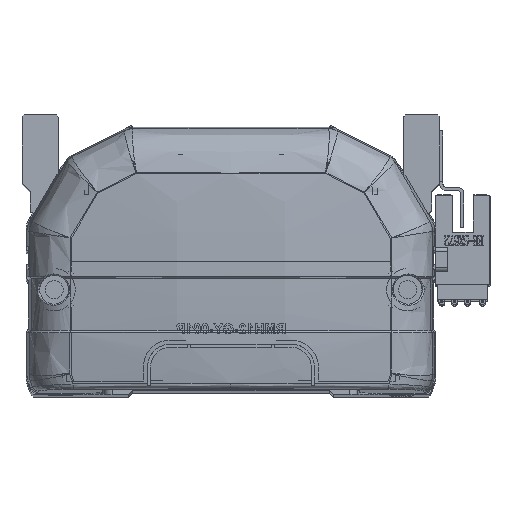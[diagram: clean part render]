
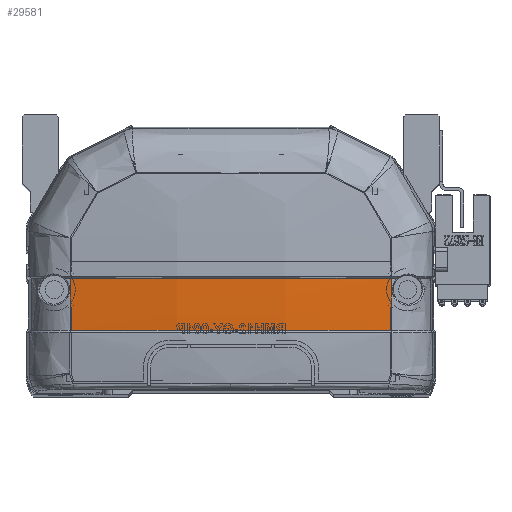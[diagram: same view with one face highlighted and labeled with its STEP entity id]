
A CAD part, top view. The second image highlights one B-rep face of the part: STEP entity #29581.
In plain terms, the highlighted free-form (B-spline) face has degree [3, 3] with [4, 4] control points.
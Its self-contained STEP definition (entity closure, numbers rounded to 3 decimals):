
#160 = EDGE_CURVE ( 'NONE', #23697, #36973, #4346, .T. ) ;
#3693 = ORIENTED_EDGE ( 'NONE', *, *, #51872, .F. ) ;
#3883 = CARTESIAN_POINT ( 'NONE',  ( 39.985, 15.83, -5.879 ) ) ;
#4252 = ORIENTED_EDGE ( 'NONE', *, *, #13504, .T. ) ;
#4346 = B_SPLINE_CURVE_WITH_KNOTS ( 'NONE', 3,
 ( #18769, #13961, #50722, #9943 ),
 .UNSPECIFIED., .F., .F.,
 ( 4, 4 ),
 ( 0., 1. ),
 .UNSPECIFIED. ) ;
#6533 = CARTESIAN_POINT ( 'NONE',  ( -40.461, 24.47, -6.231 ) ) ;
#6645 =( BOUNDED_SURFACE ( )  B_SPLINE_SURFACE ( 3, 3, ( 
 ( #14971, #56055, #10520, #15169 ),
 ( #19757, #24330, #28933, #38091 ),
 ( #25528, #34286, #39117, #48475 ),
 ( #21138, #20567, #6533, #11502 ) ),
 .UNSPECIFIED., .F., .F., .F. ) 
 B_SPLINE_SURFACE_WITH_KNOTS ( ( 4, 4 ),
 ( 4, 4 ),
 ( 0., 1. ),
 ( 0., 1. ),
 .UNSPECIFIED. ) 
 GEOMETRIC_REPRESENTATION_ITEM ( )  RATIONAL_B_SPLINE_SURFACE ( (
 ( 1., 1., 1., 1.),
 ( 0.992, 0.992, 0.992, 0.992),
 ( 0.992, 0.992, 0.992, 0.992),
 ( 1., 1., 1., 1.) ) ) 
 REPRESENTATION_ITEM ( '' )  SURFACE ( )  );
#9943 = CARTESIAN_POINT ( 'NONE',  ( 39.963, 28.706, -6.372 ) ) ;
#10520 = CARTESIAN_POINT ( 'NONE',  ( 40.461, 24.47, -6.231 ) ) ;
#11502 = CARTESIAN_POINT ( 'NONE',  ( -40.461, 28.832, -6.296 ) ) ;
#13504 = EDGE_CURVE ( 'NONE', #53776, #21131, #42001, .T. ) ;
#13961 = CARTESIAN_POINT ( 'NONE',  ( 39.973, 20.12, -6.142 ) ) ;
#14356 = CARTESIAN_POINT ( 'NONE',  ( -39.985, 15.83, -5.879 ) ) ;
#14754 = CARTESIAN_POINT ( 'NONE',  ( -26.721, 15.83, -7.624 ) ) ;
#14860 = CARTESIAN_POINT ( 'NONE',  ( -39.973, 20.118, -6.142 ) ) ;
#14971 = CARTESIAN_POINT ( 'NONE',  ( 40.461, 15.757, -5.8 ) ) ;
#14975 = CARTESIAN_POINT ( 'NONE',  ( -13.373, 28.707, -9.468 ) ) ;
#15163 = CARTESIAN_POINT ( 'NONE',  ( 39.985, 15.83, -5.879 ) ) ;
#15169 = CARTESIAN_POINT ( 'NONE',  ( 40.461, 28.832, -6.296 ) ) ;
#15446 = CARTESIAN_POINT ( 'NONE',  ( -39.966, 24.412, -6.306 ) ) ;
#18769 = CARTESIAN_POINT ( 'NONE',  ( 39.985, 15.83, -5.879 ) ) ;
#18952 = CARTESIAN_POINT ( 'NONE',  ( -36.679, 15.83, -6.395 ) ) ;
#19749 = CARTESIAN_POINT ( 'NONE',  ( 13.38, 15.83, -8.984 ) ) ;
#19757 = CARTESIAN_POINT ( 'NONE',  ( 13.598, 15.499, -10.032 ) ) ;
#19910 = CARTESIAN_POINT ( 'NONE',  ( -39.963, 28.706, -6.372 ) ) ;
#20567 = CARTESIAN_POINT ( 'NONE',  ( -40.461, 20.111, -6.066 ) ) ;
#21131 = VERTEX_POINT ( 'NONE', #46397 ) ;
#21138 = CARTESIAN_POINT ( 'NONE',  ( -40.461, 15.757, -5.8 ) ) ;
#23697 = VERTEX_POINT ( 'NONE', #3883 ) ;
#23821 = CARTESIAN_POINT ( 'NONE',  ( -39.985, 15.83, -5.879 ) ) ;
#24148 = CARTESIAN_POINT ( 'NONE',  ( 26.749, 28.706, -8.432 ) ) ;
#24330 = CARTESIAN_POINT ( 'NONE',  ( 13.598, 19.918, -10.302 ) ) ;
#24515 = CARTESIAN_POINT ( 'NONE',  ( 13.375, 28.707, -9.468 ) ) ;
#25528 = CARTESIAN_POINT ( 'NONE',  ( -13.598, 15.499, -10.032 ) ) ;
#27899 = EDGE_CURVE ( 'NONE', #53776, #36973, #52579, .T. ) ;
#28324 = CARTESIAN_POINT ( 'NONE',  ( -13.384, 15.83, -8.724 ) ) ;
#28726 = CARTESIAN_POINT ( 'NONE',  ( 26.761, 15.83, -7.945 ) ) ;
#28933 = CARTESIAN_POINT ( 'NONE',  ( 13.598, 24.342, -10.47 ) ) ;
#29527 = EDGE_LOOP ( 'NONE', ( #54173, #33190, #4252, #3693 ) ) ;
#29581 = ADVANCED_FACE ( 'NONE', ( #53937 ), #6645, .F. ) ;
#33190 = ORIENTED_EDGE ( 'NONE', *, *, #27899, .F. ) ;
#34286 = CARTESIAN_POINT ( 'NONE',  ( -13.598, 19.918, -10.302 ) ) ;
#34913 = CARTESIAN_POINT ( 'NONE',  ( 39.963, 28.706, -6.372 ) ) ;
#36973 = VERTEX_POINT ( 'NONE', #34913 ) ;
#37295 = CARTESIAN_POINT ( 'NONE',  ( -33.365, 15.83, -6.848 ) ) ;
#38091 = CARTESIAN_POINT ( 'NONE',  ( 13.598, 28.769, -10.535 ) ) ;
#39117 = CARTESIAN_POINT ( 'NONE',  ( -13.598, 24.342, -10.47 ) ) ;
#42001 = B_SPLINE_CURVE_WITH_KNOTS ( 'NONE', 3,
 ( #51785, #15446, #14860, #23821 ),
 .UNSPECIFIED., .F., .F.,
 ( 4, 4 ),
 ( 0., 1. ),
 .UNSPECIFIED. ) ;
#46397 = CARTESIAN_POINT ( 'NONE',  ( -39.985, 15.83, -5.879 ) ) ;
#46654 = CARTESIAN_POINT ( 'NONE',  ( -6.692, 15.83, -8.984 ) ) ;
#48475 = CARTESIAN_POINT ( 'NONE',  ( -13.598, 28.769, -10.535 ) ) ;
#50722 = CARTESIAN_POINT ( 'NONE',  ( 39.966, 24.413, -6.306 ) ) ;
#50890 = CARTESIAN_POINT ( 'NONE',  ( -23.389, 15.83, -7.947 ) ) ;
#51785 = CARTESIAN_POINT ( 'NONE',  ( -39.963, 28.706, -6.372 ) ) ;
#51872 = EDGE_CURVE ( 'NONE', #23697, #21131, #53147, .T. ) ;
#51903 = CARTESIAN_POINT ( 'NONE',  ( -26.748, 28.706, -8.432 ) ) ;
#52579 = B_SPLINE_CURVE_WITH_KNOTS ( 'NONE', 3,
 ( #55274, #51903, #14975, #24515, #24148, #56459 ),
 .UNSPECIFIED., .F., .F.,
 ( 4, 2, 4 ),
 ( 0., 0.5, 1. ),
 .UNSPECIFIED. ) ;
#53147 = B_SPLINE_CURVE_WITH_KNOTS ( 'NONE', 3,
 ( #15163, #28726, #19749, #46654, #28324, #50890, #14754, #37295, #18952, #14356 ),
 .UNSPECIFIED., .F., .F.,
 ( 4, 2, 2, 2, 4 ),
 ( 0., 0.04, 0.06, 0.07, 0.08 ),
 .UNSPECIFIED. ) ;
#53776 = VERTEX_POINT ( 'NONE', #19910 ) ;
#53937 = FACE_OUTER_BOUND ( 'NONE', #29527, .T. ) ;
#54173 = ORIENTED_EDGE ( 'NONE', *, *, #160, .T. ) ;
#55274 = CARTESIAN_POINT ( 'NONE',  ( -39.963, 28.706, -6.372 ) ) ;
#56055 = CARTESIAN_POINT ( 'NONE',  ( 40.461, 20.111, -6.066 ) ) ;
#56459 = CARTESIAN_POINT ( 'NONE',  ( 39.963, 28.706, -6.372 ) ) ;
